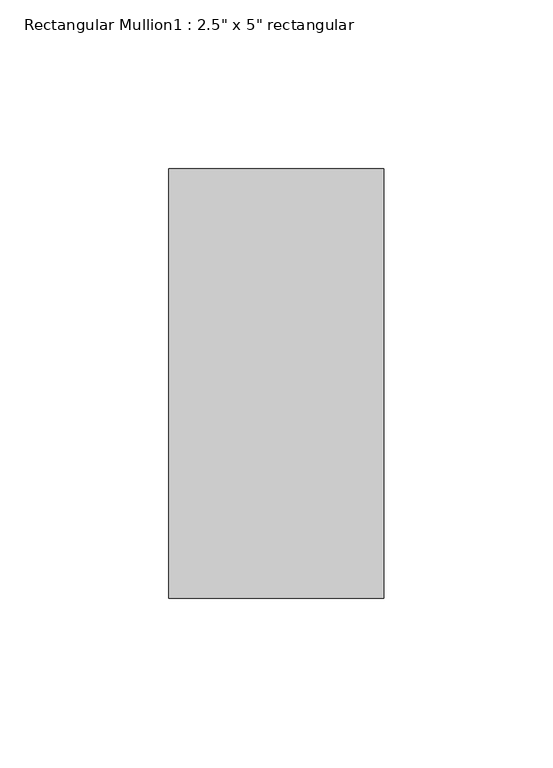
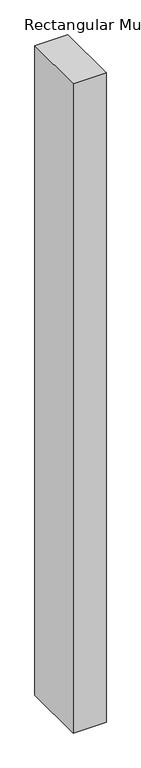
"""IFC4 building model written with IfcOpenShell, lengths in millimetres: member geometry."""

from ifc_helpers import new_model, si_unit, frame, origin, place, context, project, spatial, polyline, outline, extrude, source, transform, mapped, element, save


def member_f8a9089e(model_context):
    return source(origin(), model_context, "Body", "SweptSolid", [
        extrude(outline(polyline([(0.0, 63.5), (0.0, -63.5), (-63.5, -63.5), (-63.5, 63.5), (0.0, 63.5)])), frame((0.0, 0.0, -1320.067308), z_axis=(0.0, 0.0, 1.0), x_axis=(1.0, 0.0, 0.0)), (0.0, 0.0, 1.0), 1320.067308),
    ])


if __name__ == "__main__":
    model = new_model("IFC4")
    model_context = context("Model", 3, world=origin())
    ifc_project = project(units=[si_unit("LENGTHUNIT", "METRE", prefix="MILLI")], contexts=[model_context])
    site = spatial("IfcSite", under=ifc_project)
    building = spatial("IfcBuilding", under=site)
    placement = place(None, origin())
    member_shape = member_f8a9089e(model_context)
    element("IfcMember", 1, ObjectType="Rectangular Mullion1 : 2.5\" x 5\" rectangular", at=placement, inside=building, context=model_context, shape_type="MappedRepresentation", body=[
        mapped(member_shape, transform((0.0, 0.0, 0.0), x_axis=(1.0, 0.0, 0.0), y_axis=(0.0, 1.0, 0.0), z_axis=(0.0, 0.0, 1.0))),
    ])
    save(model, "model.ifc")
